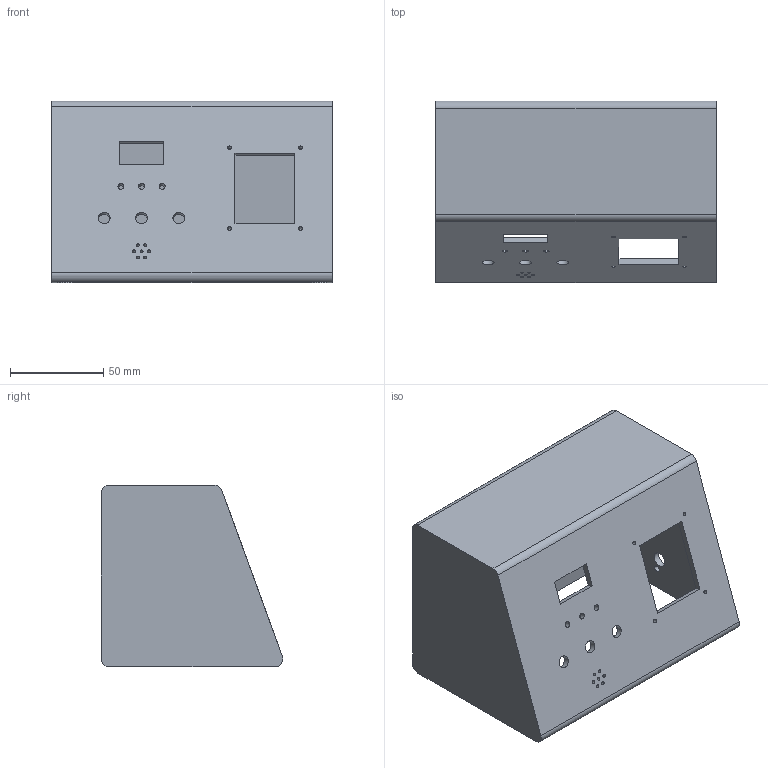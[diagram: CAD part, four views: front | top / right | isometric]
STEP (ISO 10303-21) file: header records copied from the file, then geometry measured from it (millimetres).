
FILE_DESCRIPTION(('Open CASCADE Model'),'2;1');
FILE_NAME('Open CASCADE Shape Model','2026-10-07T20:49:38',('Author'),( 'Open CASCADE'),'Open CASCADE STEP processor 7.9','Open CASCADE 7.9' ,'Unknown');
FILE_SCHEMA(('AUTOMOTIVE_DESIGN { 1 0 10303 214 1 1 1 1 }'));
Length unit declared in the file: millimetre
Products named in the file (1): Open CASCADE STEP translator 7.9 1
Bounding box: 150 x 97.2 x 97 mm (x, y, z)
Volume: 164897.9 mm3; surface area: 105469 mm2
Topology: 1 solids, 1 shells, 61 faces, 171 edges, 114 vertices
Faces by surface type: cylinder 33, plane 28
Full cylindrical faces by diameter (mm): 1.6 x7, 2 x4, 2.6 x4, 3.2 x3, 3.4 x2, 6.5 x3, 8 x2
Entity records: 4425 total; most frequent: CARTESIAN_POINT 1084, DIRECTION 586, ORIENTED_EDGE 342, PCURVE 342, DEFINITIONAL_REPRESENTATION 342, LINE 292, VECTOR 292, EDGE_CURVE 171
